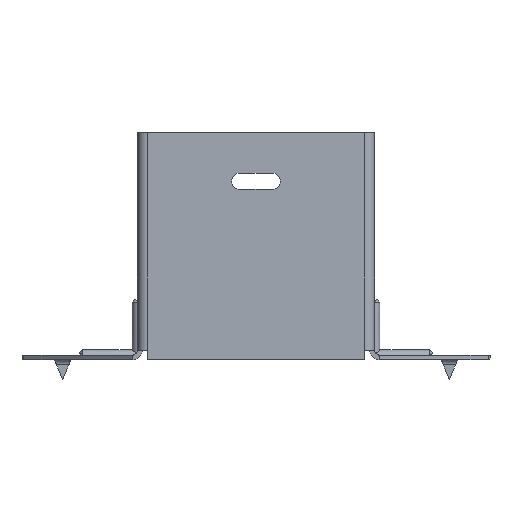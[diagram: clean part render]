
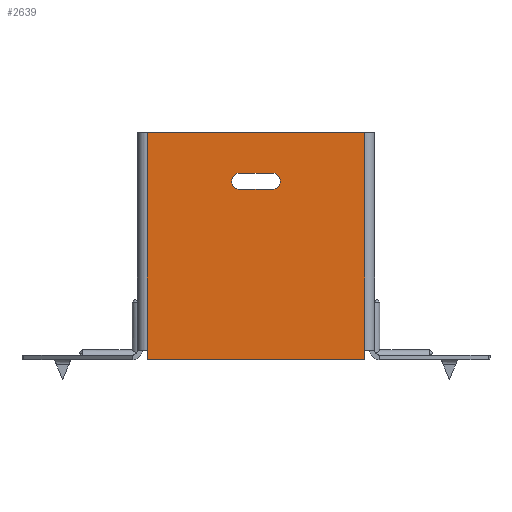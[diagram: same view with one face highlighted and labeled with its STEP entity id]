
A CAD part, front view. The second image highlights one B-rep face of the part: STEP entity #2639.
In plain terms, the highlighted planar face has unit normal (0, -1, 0).
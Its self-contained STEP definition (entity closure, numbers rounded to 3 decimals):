
#195 = ORIENTED_EDGE ( 'NONE', *, *, #8883, .T. ) ;
#314 = CARTESIAN_POINT ( 'NONE',  ( -5., 0., -17.5 ) ) ;
#398 = CARTESIAN_POINT ( 'NONE',  ( -33.5, 0., 0. ) ) ;
#448 = AXIS2_PLACEMENT_3D ( 'NONE', #12656, #10638, #6563 ) ;
#515 = VECTOR ( 'NONE', #5022, 1000. ) ;
#601 = ORIENTED_EDGE ( 'NONE', *, *, #4488, .T. ) ;
#686 = CARTESIAN_POINT ( 'NONE',  ( 33.5, 0., -67. ) ) ;
#765 = CARTESIAN_POINT ( 'NONE',  ( 0., 0., 0. ) ) ;
#794 = DIRECTION ( 'NONE',  ( 0., 1., 0. ) ) ;
#835 = DIRECTION ( 'NONE',  ( 0., 0., 1. ) ) ;
#1558 = VECTOR ( 'NONE', #3847, 1000. ) ;
#1620 = DIRECTION ( 'NONE',  ( 0., 0., 1. ) ) ;
#1757 = EDGE_LOOP ( 'NONE', ( #7173, #4203, #12471, #5544, #12455, #7426 ) ) ;
#1775 = EDGE_LOOP ( 'NONE', ( #195, #10002, #601, #3677 ) ) ;
#1819 = CIRCLE ( 'NONE', #448, 2.5 ) ;
#1976 = VERTEX_POINT ( 'NONE', #4036 ) ;
#2133 = FACE_OUTER_BOUND ( 'NONE', #1757, .T. ) ;
#2315 = VECTOR ( 'NONE', #11543, 1000. ) ;
#2335 = EDGE_CURVE ( 'NONE', #11786, #2377, #2555, .T. ) ;
#2377 = VERTEX_POINT ( 'NONE', #9614 ) ;
#2493 = VERTEX_POINT ( 'NONE', #5721 ) ;
#2521 = VECTOR ( 'NONE', #4474, 1000. ) ;
#2555 = LINE ( 'NONE', #4620, #11495 ) ;
#2575 = CARTESIAN_POINT ( 'NONE',  ( -33.5, 0., -70. ) ) ;
#2639 = ADVANCED_FACE ( 'NONE', ( #12516, #2133 ), #6017, .F. ) ;
#2851 = DIRECTION ( 'NONE',  ( 0., 1., 0. ) ) ;
#2939 = LINE ( 'NONE', #4910, #6784 ) ;
#2972 = AXIS2_PLACEMENT_3D ( 'NONE', #765, #2851, #2974 ) ;
#2974 = DIRECTION ( 'NONE',  ( 0., 0., 1. ) ) ;
#3677 = ORIENTED_EDGE ( 'NONE', *, *, #9821, .T. ) ;
#3743 = DIRECTION ( 'NONE',  ( 1., 0., 0. ) ) ;
#3785 = CARTESIAN_POINT ( 'NONE',  ( -5., 0., -12.5 ) ) ;
#3847 = DIRECTION ( 'NONE',  ( -1., 0., 0. ) ) ;
#4036 = CARTESIAN_POINT ( 'NONE',  ( 5., 0., -12.5 ) ) ;
#4203 = ORIENTED_EDGE ( 'NONE', *, *, #10821, .T. ) ;
#4290 = LINE ( 'NONE', #8847, #1558 ) ;
#4424 = AXIS2_PLACEMENT_3D ( 'NONE', #11000, #794, #835 ) ;
#4443 = CARTESIAN_POINT ( 'NONE',  ( -5., 0., -17.5 ) ) ;
#4474 = DIRECTION ( 'NONE',  ( 0., 0., -1. ) ) ;
#4488 = EDGE_CURVE ( 'NONE', #2493, #1976, #7468, .T. ) ;
#4620 = CARTESIAN_POINT ( 'NONE',  ( 33.5, 0., -70. ) ) ;
#4732 = VECTOR ( 'NONE', #3743, 1000. ) ;
#4852 = VERTEX_POINT ( 'NONE', #2575 ) ;
#4909 = EDGE_CURVE ( 'NONE', #10235, #11786, #10863, .T. ) ;
#4910 = CARTESIAN_POINT ( 'NONE',  ( -35., 0., 0. ) ) ;
#5022 = DIRECTION ( 'NONE',  ( 0., 0., -1. ) ) ;
#5255 = EDGE_CURVE ( 'NONE', #8010, #2493, #10701, .T. ) ;
#5528 = CARTESIAN_POINT ( 'NONE',  ( 33.5, 0., -70. ) ) ;
#5544 = ORIENTED_EDGE ( 'NONE', *, *, #4909, .T. ) ;
#5554 = CARTESIAN_POINT ( 'NONE',  ( 33.5, 0., -70. ) ) ;
#5721 = CARTESIAN_POINT ( 'NONE',  ( -5., 0., -12.5 ) ) ;
#6017 = PLANE ( 'NONE',  #2972 ) ;
#6563 = DIRECTION ( 'NONE',  ( 0., 0., 1. ) ) ;
#6654 = CARTESIAN_POINT ( 'NONE',  ( 5., 0., -17.5 ) ) ;
#6735 = EDGE_CURVE ( 'NONE', #10235, #4852, #4290, .T. ) ;
#6784 = VECTOR ( 'NONE', #12057, 1000. ) ;
#7173 = ORIENTED_EDGE ( 'NONE', *, *, #12616, .T. ) ;
#7426 = ORIENTED_EDGE ( 'NONE', *, *, #10303, .F. ) ;
#7468 = LINE ( 'NONE', #3785, #4732 ) ;
#7526 = VECTOR ( 'NONE', #7586, 1000. ) ;
#7586 = DIRECTION ( 'NONE',  ( 0., 0., 1. ) ) ;
#8010 = VERTEX_POINT ( 'NONE', #314 ) ;
#8847 = CARTESIAN_POINT ( 'NONE',  ( -35., 0., -70. ) ) ;
#8883 = EDGE_CURVE ( 'NONE', #9844, #8010, #10604, .T. ) ;
#8937 = CARTESIAN_POINT ( 'NONE',  ( -33.5, 0., -67. ) ) ;
#9253 = CARTESIAN_POINT ( 'NONE',  ( -33.5, 0., 0. ) ) ;
#9315 = LINE ( 'NONE', #11193, #515 ) ;
#9614 = CARTESIAN_POINT ( 'NONE',  ( 33.5, 0., 0. ) ) ;
#9821 = EDGE_CURVE ( 'NONE', #1976, #9844, #1819, .T. ) ;
#9844 = VERTEX_POINT ( 'NONE', #6654 ) ;
#10002 = ORIENTED_EDGE ( 'NONE', *, *, #5255, .T. ) ;
#10235 = VERTEX_POINT ( 'NONE', #5554 ) ;
#10303 = EDGE_CURVE ( 'NONE', #11487, #2377, #2939, .T. ) ;
#10328 = LINE ( 'NONE', #398, #2521 ) ;
#10604 = LINE ( 'NONE', #4443, #2315 ) ;
#10638 = DIRECTION ( 'NONE',  ( 0., 1., 0. ) ) ;
#10701 = CIRCLE ( 'NONE', #4424, 2.5 ) ;
#10821 = EDGE_CURVE ( 'NONE', #12827, #4852, #9315, .T. ) ;
#10863 = LINE ( 'NONE', #5528, #7526 ) ;
#11000 = CARTESIAN_POINT ( 'NONE',  ( -5., 0., -15. ) ) ;
#11193 = CARTESIAN_POINT ( 'NONE',  ( -33.5, 0., 0. ) ) ;
#11487 = VERTEX_POINT ( 'NONE', #9253 ) ;
#11495 = VECTOR ( 'NONE', #1620, 1000. ) ;
#11543 = DIRECTION ( 'NONE',  ( -1., 0., 0. ) ) ;
#11786 = VERTEX_POINT ( 'NONE', #686 ) ;
#12057 = DIRECTION ( 'NONE',  ( 1., 0., 0. ) ) ;
#12455 = ORIENTED_EDGE ( 'NONE', *, *, #2335, .T. ) ;
#12471 = ORIENTED_EDGE ( 'NONE', *, *, #6735, .F. ) ;
#12516 = FACE_BOUND ( 'NONE', #1775, .T. ) ;
#12616 = EDGE_CURVE ( 'NONE', #11487, #12827, #10328, .T. ) ;
#12656 = CARTESIAN_POINT ( 'NONE',  ( 5., 0., -15. ) ) ;
#12827 = VERTEX_POINT ( 'NONE', #8937 ) ;
